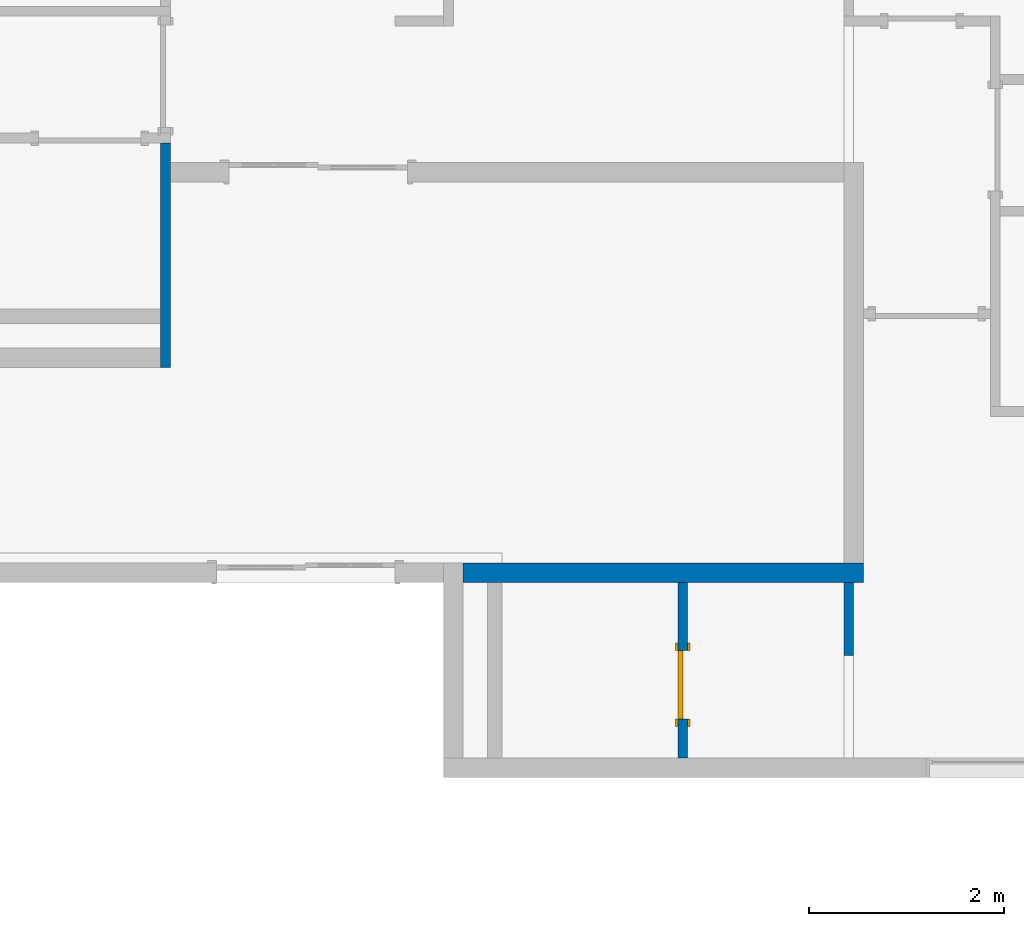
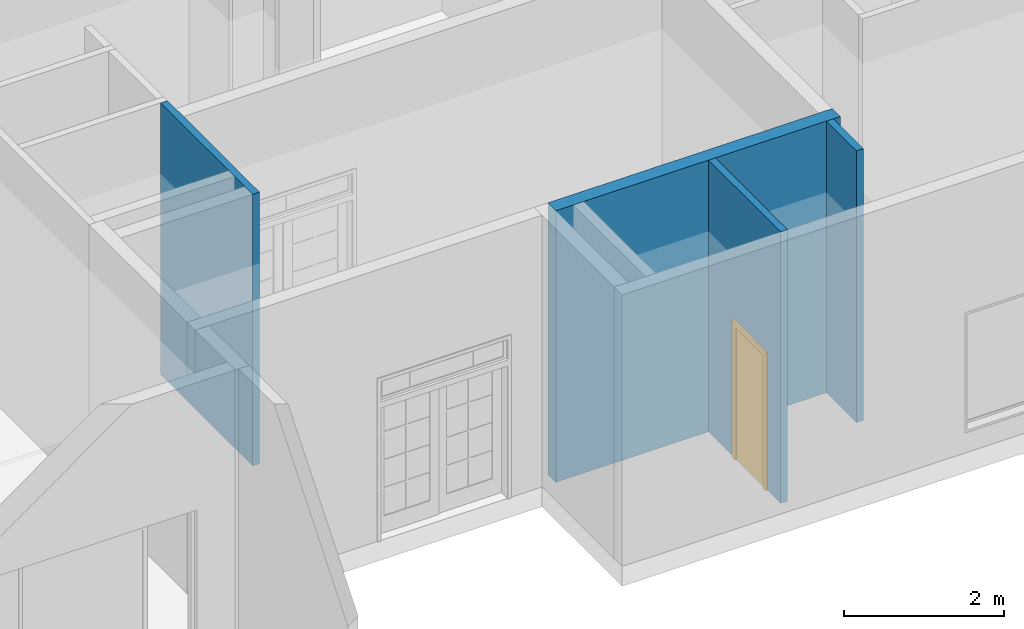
# One storey, part 3 of 8: 4 walls, 1 door, 1 opening.
"""IFC2X3 building model written with IfcOpenShell, lengths in metres."""

from ifc_helpers import new_model, entity, si_unit, converted_unit, derived_unit, direction, frame, frame_2d, origin, origin_2d_with_axis, place, context, subcontext, project, spatial, polyline, rectangle, outline, extrude, source, transform, mapped, material, material_list, layer, layer_set, layer_usage, type_object, type_shapes, element, fill, save


model = new_model("IFC2X3")

# Units and contexts
model_context = context("Model", 3, precision=1e-05, world=origin(), true_north=direction((6.123031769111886e-17, 1.0)))
body_context = subcontext(model_context, "Body", "Model", "MODEL_VIEW")
ifc_project = project(units=[si_unit("LENGTHUNIT", "METRE"), si_unit("AREAUNIT", "SQUARE_METRE"), si_unit("VOLUMEUNIT", "CUBIC_METRE"), converted_unit("PLANEANGLEUNIT", "DEGREE", entity("IfcRatioMeasure", 0.017453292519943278), si_unit("PLANEANGLEUNIT", "RADIAN"), dimensions=[0, 0, 0, 0, 0, 0, 0]), si_unit("MASSUNIT", "GRAM", prefix="KILO"), derived_unit("MASSDENSITYUNIT", [(si_unit("MASSUNIT", "GRAM", prefix="KILO"), 1), (si_unit("LENGTHUNIT", "METRE"), -3)]), derived_unit("MOMENTOFINERTIAUNIT", [(si_unit("LENGTHUNIT", "METRE"), 4)]), si_unit("TIMEUNIT", "SECOND"), si_unit("FREQUENCYUNIT", "HERTZ"), si_unit("THERMODYNAMICTEMPERATUREUNIT", "DEGREE_CELSIUS"), derived_unit("THERMALTRANSMITTANCEUNIT", [(si_unit("MASSUNIT", "GRAM", prefix="KILO"), 1), (si_unit("THERMODYNAMICTEMPERATUREUNIT", "KELVIN"), -1), (si_unit("TIMEUNIT", "SECOND"), -3)]), derived_unit("VOLUMETRICFLOWRATEUNIT", [(si_unit("LENGTHUNIT", "METRE"), 3), (si_unit("TIMEUNIT", "SECOND"), -1)]), derived_unit("MASSFLOWRATEUNIT", [(si_unit("MASSUNIT", "GRAM", prefix="KILO"), 1), (si_unit("TIMEUNIT", "SECOND"), -1)]), derived_unit("ROTATIONALFREQUENCYUNIT", [(si_unit("TIMEUNIT", "SECOND"), -1)]), si_unit("ELECTRICCURRENTUNIT", "AMPERE"), si_unit("ELECTRICVOLTAGEUNIT", "VOLT"), si_unit("POWERUNIT", "WATT"), si_unit("FORCEUNIT", "NEWTON", prefix="KILO"), si_unit("ILLUMINANCEUNIT", "LUX"), si_unit("LUMINOUSFLUXUNIT", "LUMEN"), si_unit("LUMINOUSINTENSITYUNIT", "CANDELA"), derived_unit("USERDEFINED", [(si_unit("MASSUNIT", "GRAM", prefix="KILO"), -1), (si_unit("LENGTHUNIT", "METRE"), -2), (si_unit("TIMEUNIT", "SECOND"), 3), (si_unit("LUMINOUSFLUXUNIT", "LUMEN"), 1)]), derived_unit("SOUNDPOWERUNIT", [(si_unit("MASSUNIT", "GRAM", prefix="KILO"), 1), (si_unit("LENGTHUNIT", "METRE"), 2), (si_unit("TIMEUNIT", "SECOND"), -3)]), derived_unit("SOUNDPRESSUREUNIT", [(si_unit("MASSUNIT", "GRAM", prefix="KILO"), 1), (si_unit("LENGTHUNIT", "METRE"), -1), (si_unit("TIMEUNIT", "SECOND"), -2)]), derived_unit("LINEARVELOCITYUNIT", [(si_unit("LENGTHUNIT", "METRE"), 1), (si_unit("TIMEUNIT", "SECOND"), -1)]), si_unit("PRESSUREUNIT", "PASCAL"), derived_unit("USERDEFINED", [(si_unit("LENGTHUNIT", "METRE"), -2), (si_unit("MASSUNIT", "GRAM", prefix="KILO"), 1), (si_unit("TIMEUNIT", "SECOND"), -2)]), derived_unit("LINEARFORCEUNIT", [(si_unit("MASSUNIT", "GRAM", prefix="KILO"), 1), (si_unit("LENGTHUNIT", "METRE"), 1), (si_unit("TIMEUNIT", "SECOND"), -2), (si_unit("LENGTHUNIT", "METRE"), -1)]), derived_unit("PLANARFORCEUNIT", [(si_unit("MASSUNIT", "GRAM", prefix="KILO"), 1), (si_unit("LENGTHUNIT", "METRE"), 1), (si_unit("TIMEUNIT", "SECOND"), -2), (si_unit("LENGTHUNIT", "METRE"), -2)])], contexts=[model_context])

# Site, building, storey
site_placement = place(None, origin())
site = spatial("IfcSite", under=ifc_project, at=site_placement, Name="Default", CompositionType="ELEMENT")
building_placement = place(site_placement, origin())
building = spatial("IfcBuilding", under=site, at=building_placement, CompositionType="ELEMENT")
storey_placement = place(building_placement, frame((0.0, 0.0, 1.1999999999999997)))
storey = spatial("IfcBuildingStorey", under=building, at=storey_placement, Name="G0", CompositionType="ELEMENT", Elevation=1.1999999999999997)

# Wall
ifc_material_1 = material(Name="Masonry - Concrete Block")
ifc_layer_1 = layer(ifc_material_1, 0.2)
ifc_layer_set_1 = layer_set([ifc_layer_1], Name="Basic Wall:CW 200")
ifc_layer_usage_1 = layer_usage(ifc_layer_set_1, "AXIS2", "NEGATIVE", 0.1)
wall_type_1 = type_object("IfcWallType", Name="Basic Wall:CW 200", PredefinedType="STANDARD", material=ifc_layer_set_1)
wall_1_placement = place(storey_placement, frame((18.10768321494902, -5.202309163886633, 0.0)))
element("IfcWallStandardCase", 1, at=wall_1_placement, inside=storey, type_object=wall_type_1, material=ifc_layer_usage_1, Name="Basic Wall:CW 200", ObjectType="Basic Wall:CW 200", context=body_context, shape_type="SweptSolid", body=[
    extrude(rectangle(XDim=4.100000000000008, YDim=0.2, at=frame_2d((2.050000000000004, 6.938893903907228e-18), x_axis=(-1.0, 0.0))), origin(), (0.0, 0.0, 1.0), 4.139999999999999),
])

# Wall, opening, door
ifc_layer_2 = layer(ifc_material_1, 0.1)
ifc_layer_set_2 = layer_set([ifc_layer_2], Name="Basic Wall:CW 100")
ifc_layer_usage_2 = layer_usage(ifc_layer_set_2, "AXIS2", "NEGATIVE", 0.05)
wall_type_2 = type_object("IfcWallType", Name="Basic Wall:CW 100", PredefinedType="STANDARD", material=ifc_layer_set_2)
wall_2_placement = place(storey_placement, frame((20.35768321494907, -5.302309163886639, 0.0), z_axis=(0.0, 0.0, 1.0), x_axis=(0.0, -1.0, 0.0)))
wall_2 = element("IfcWallStandardCase", 2, at=wall_2_placement, inside=storey, type_object=wall_type_2, material=ifc_layer_usage_2, Name="Basic Wall:CW 100", ObjectType="Basic Wall:CW 100", context=body_context, shape_type="SweptSolid", body=[
    extrude(rectangle(XDim=1.7999999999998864, YDim=0.09999999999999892, at=frame_2d((0.8999999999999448, 2.1649348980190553e-15), x_axis=(1.0, 0.0))), origin(), (0.0, 0.0, 1.0), 4.139999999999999),
])
opening_placement = place(wall_2_placement, frame((1.3999999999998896, 0.04999999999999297, 0.0)))
opening = element("IfcOpeningElement", 3, at=opening_placement, cuts=wall_2, Name="M_Single-Flush:0762 x 2032mm:1", ObjectType="Opening", context=body_context, shape_type="SweptSolid", body=[
    extrude(rectangle(XDim=0.6999999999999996, YDim=2.0319999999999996, at=frame_2d((1.0160000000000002, 0.3500000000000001), x_axis=(0.0, 1.0))), frame((0.0, 0.0, 0.0), z_axis=(0.0, -1.0, 0.0), x_axis=(0.0, 0.0, 1.0)), (0.0, 0.0, 1.0), 0.1),
])
ifc_material_2 = material(Name="Door - Frame")
ifc_material_3 = material(Name="Door - Panel")
ifc_material_list_1 = material_list([ifc_material_2, ifc_material_3])
ifc_material_list_2 = material_list([ifc_material_2, ifc_material_2, ifc_material_3])
door_style = type_object("IfcDoorStyle", Name="M_Single-Flush:0762 x 2032mm", ConstructionType="NOTDEFINED", OperationType="NOTDEFINED", ParameterTakesPrecedence=False, Sizeable=False, material=ifc_material_list_2)
shared_shape = source(origin(), body_context, "Body", "SweptSolid", [
    extrude(outline(polyline([(-0.426, -1.0729999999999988), (0.4259999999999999, -1.0729999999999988), (0.4259999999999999, 1.0350000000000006), (0.3499999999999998, 1.0350000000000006), (0.3499999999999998, -0.9970000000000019), (-0.3499999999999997, -0.9970000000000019), (-0.3499999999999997, 1.0350000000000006), (-0.426, 1.0350000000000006), (-0.426, -1.0729999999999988)])), frame((0.3500000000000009, 0.10000000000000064, 1.0350000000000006), z_axis=(0.0, 1.0, 0.0), x_axis=(1.0, 0.0, 0.0)), (0.0, 0.0, 1.0), 0.024999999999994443),
    extrude(outline(polyline([(-1.0729999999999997, -0.42599999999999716), (1.0349999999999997, -0.42599999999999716), (1.0349999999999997, -0.3500000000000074), (-0.9969999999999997, -0.3500000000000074), (-0.9969999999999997, 0.35000000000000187), (1.0349999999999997, 0.35000000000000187), (1.0349999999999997, 0.4260000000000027), (-1.0729999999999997, 0.4260000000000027), (-1.0729999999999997, -0.42599999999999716)])), frame((0.35000000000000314, -0.025000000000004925, 1.0349999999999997), z_axis=(0.0, 1.0, 0.0), x_axis=(0.0, 0.0, -1.0)), (0.0, 0.0, 1.0), 0.025000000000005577),
    extrude(rectangle(XDim=0.051000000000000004, YDim=0.6999999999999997, at=origin_2d_with_axis()), frame((0.3500000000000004, 0.07450000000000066, 0.0), z_axis=(0.0, 0.0, 1.0), x_axis=(0.0, 1.0, 0.0)), (0.0, 0.0, 1.0), 2.0319999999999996),
])
type_shapes(door_style, [shared_shape])
door_placement = place(opening_placement, frame((0.0, 0.0, 0.0), z_axis=(0.0, 0.0, 1.0), x_axis=(-1.0, 0.0, 0.0)))
door = element("IfcDoor", 4, at=door_placement, inside=storey, type_object=door_style, material=ifc_material_list_1, Name="M_Single-Flush:0762 x 2032mm", ObjectType="M_Single-Flush:0762 x 2032mm", OverallHeight=2.0319999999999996, OverallWidth=0.7000000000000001, context=body_context, shape_type="MappedRepresentation", body=[
    mapped(shared_shape, transform((0.0, 0.0, 0.0), scale=1.0)),
])
fill(opening, door)

# Walls
ifc_layer_usage_3 = layer_usage(ifc_layer_set_2, "AXIS2", "NEGATIVE", 0.05)
wall_3_placement = place(storey_placement, frame((22.057683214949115, -5.302309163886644, 0.0), z_axis=(0.0, 0.0, 1.0), x_axis=(0.0, -1.0, 0.0)))
element("IfcWallStandardCase", 5, at=wall_3_placement, inside=storey, type_object=wall_type_2, material=ifc_layer_usage_3, Name="Basic Wall:CW 100", ObjectType="Basic Wall:CW 100", context=body_context, shape_type="SweptSolid", body=[
    extrude(rectangle(XDim=0.7499999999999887, YDim=0.10000000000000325, at=frame_2d((0.37499999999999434, 0.0), x_axis=(-1.0, 0.0))), origin(), (0.0, 0.0, 1.0), 4.139999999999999),
])
ifc_layer_usage_4 = layer_usage(ifc_layer_set_2, "AXIS2", "NEGATIVE", 0.05)
wall_4_placement = place(storey_placement, frame((15.0576832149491, -0.802309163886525, 0.0), z_axis=(0.0, 0.0, 1.0), x_axis=(0.0, -1.0, 0.0)))
element("IfcWallStandardCase", 6, at=wall_4_placement, inside=storey, type_object=wall_type_2, material=ifc_layer_usage_4, Name="Basic Wall:CW 100", ObjectType="Basic Wall:CW 100", context=body_context, shape_type="SweptSolid", body=[
    extrude(rectangle(XDim=2.3000000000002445, YDim=0.09999999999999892, at=frame_2d((1.1500000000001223, 2.0816681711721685e-16), x_axis=(-1.0, 0.0))), origin(), (0.0, 0.0, 1.0), 4.139999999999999),
])

save(model, "model.ifc")
